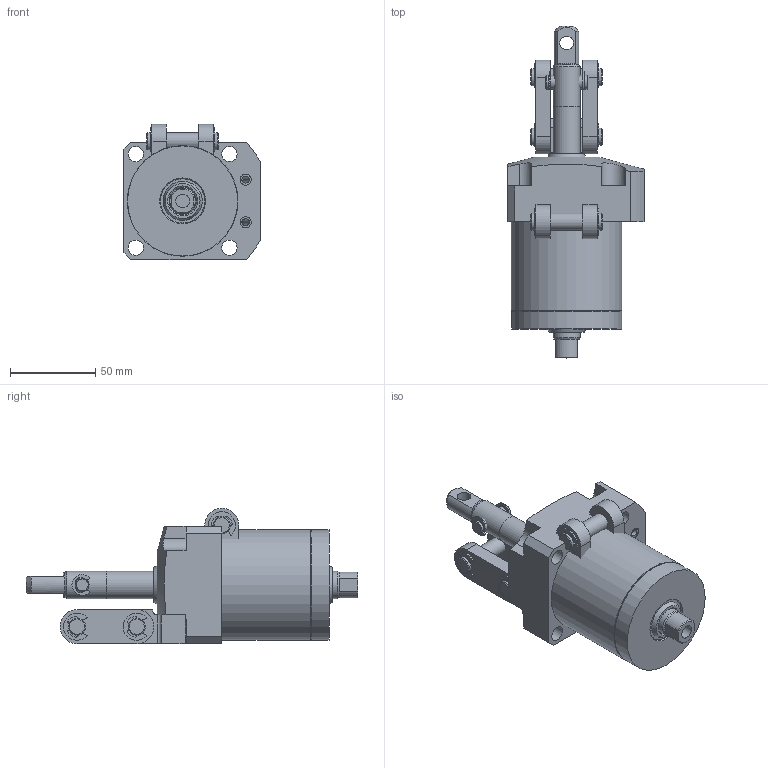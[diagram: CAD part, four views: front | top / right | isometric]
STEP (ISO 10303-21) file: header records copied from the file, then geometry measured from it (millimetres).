
FILE_DESCRIPTION( ( '' ), '1' );
FILE_NAME( 'W:/Catalogue/JL5H/JL5H42-28GRD/JL5H42-28GRD.stp', '2008-05-26T01:48:25', ( '機械事業部産業機器グループ' ), ( '豊和工業株式会社' ), 'XStep 1.0', ' ', ' ' );
FILE_SCHEMA( ( 'CONFIG_CONTROL_DESIGN' ) );
Length unit declared in the file: millimetre
Products named in the file (6): Assem1; 1; 2; 3; 4; 5
Bounding box: 80 x 195 x 79.5 mm (x, y, z)
Volume: 774590.5 mm3; surface area: 150999.1 mm2
Topology: 11 solids, 17 shells, 634 faces, 1609 edges, 1049 vertices
Faces by surface type: plane 334, cylinder 236, cone 60, torus 4
Full cylindrical faces by diameter (mm): 2 x2, 4 x4, 6 x4, 6.5 x4, 6.6 x2, 8 x18, 9 x8, 10 x14, 11 x4, 14.5 x2, 16 x8, 18 x4, 22 x4, 26 x8, 42 x4, 64 x2, 64.7 x2, 65 x2
Entity records: 9380 total; most frequent: CARTESIAN_POINT 1822, DIRECTION 1603, ORIENTED_EDGE 1358, EDGE_CURVE 679, AXIS2_PLACEMENT_3D 634, VERTEX_POINT 486, EDGE_LOOP 437, FACE_OUTER_BOUND 359
